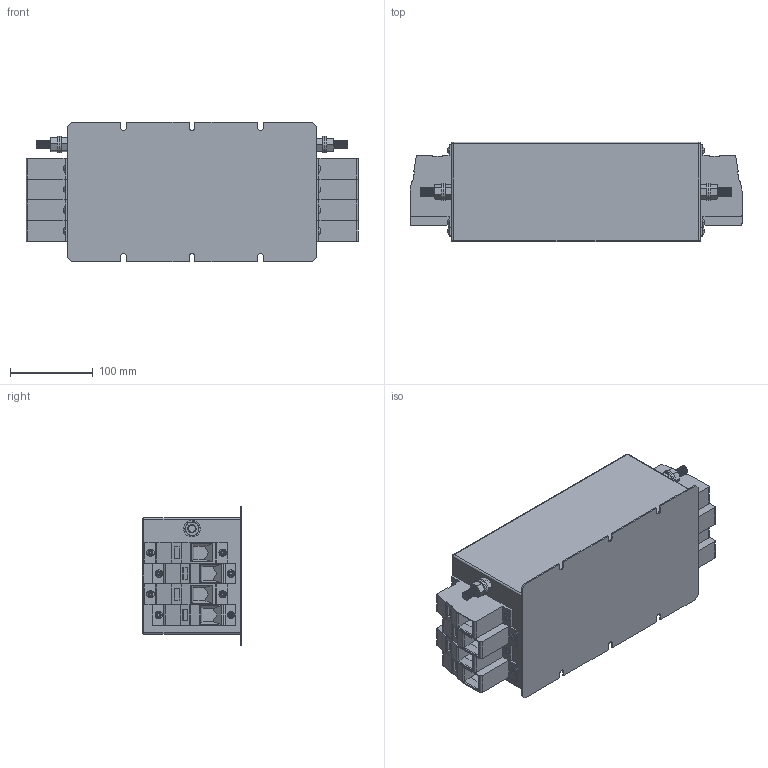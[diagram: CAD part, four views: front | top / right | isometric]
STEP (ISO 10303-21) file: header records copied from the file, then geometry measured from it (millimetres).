
FILE_DESCRIPTION (( 'STEP AP203' ), '1' );
FILE_NAME ('NF-4-200-FTT.STEP', '2020-09-09T12:11:07', ( '' ), ( '' ), 'SwSTEP 2.0', 'SolidWorks 2017', '' );
FILE_SCHEMA (( 'CONFIG_CONTROL_DESIGN' ));
Length unit declared in the file: millimetre
Products named in the file (8): NF-4-200-FTT; flat washer narrow_am_B18.22M - Plain washer, 10 mm, narrow; HDFK-95; 5mm Rivet short; hex screw_am_B18.6.7M - M10 x 1.5 x 30 Indented HHMS --30S; hex nut style 1_am_B18.2.4.1M - Hex nut, Style 1,  M10 x 1.5, with 16mm WAF --D-N; M10x30 Earth post
Assembly tree (31 placements, depth 3):
  NF-4-200-FTT
    NF-4-200-FTT
    M10x30 Earth post  x2
      flat washer narrow_am_B18.22M - Plain washer, 10 mm, narrow
      hex nut style 1_am_B18.2.4.1M - Hex nut, Style 1,  M10 x 1.5, with 16mm WAF --D-N
      hex screw_am_B18.6.7M - M10 x 1.5 x 30 Indented HHMS --30S
    HDFK-95  x8
    5mm Rivet short  x16
Bounding box: 400 x 120 x 168 mm (x, y, z)
Volume: 5653669.7 mm3; surface area: 491806.2 mm2
Topology: 34 solids, 34 shells, 1241 faces, 3031 edges, 1930 vertices
Faces by surface type: plane 670, cylinder 303, cone 232, torus 32, sphere 4
Entity records: 11593 total; most frequent: CARTESIAN_POINT 1909, DIRECTION 1843, ORIENTED_EDGE 1646, EDGE_CURVE 823, AXIS2_PLACEMENT_3D 694, VERTEX_POINT 520, LINE 455, VECTOR 455
